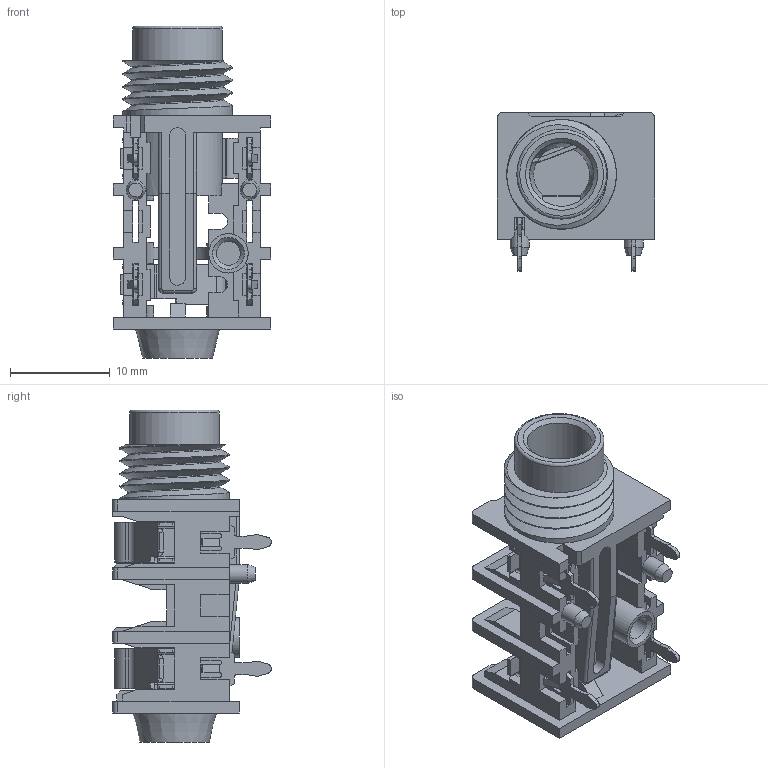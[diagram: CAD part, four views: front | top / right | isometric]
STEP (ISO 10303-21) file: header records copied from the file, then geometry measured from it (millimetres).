
FILE_DESCRIPTION((''),'2;1');
FILE_NAME('Open CASCADE Shape Model','2023-11-17T13:29:20',('minh'),('') ,'Open CASCADE STEP processor 7.6','Autodesk Inventor 2012','Unknown' );
FILE_SCHEMA(('AUTOMOTIVE_DESIGN_CC2 { 1 2 10303 214 -1 1 5 4 }'));
Length unit declared in the file: millimetre
Products named in the file (6): ACJS-HHOP; SOLID
Assembly tree (5 placements, depth 2):
  ACJS-HHOP
    SOLID
    SOLID
    SOLID
    SOLID
    SOLID
Bounding box: 15.75 x 15.9 x 33.3 mm (x, y, z)
Volume: 2001.6 mm3; surface area: 4073.9 mm2
Topology: 5 solids, 5 shells, 647 faces, 1823 edges, 1171 vertices
Faces by surface type: plane 500, cylinder 119, bspline 21, cone 6, torus 1
Full cylindrical faces by diameter (mm): 1.9 x2, 2.4 x1, 3.95 x1, 6.43 x1, 9 x1
Entity records: 23748 total; most frequent: CARTESIAN_POINT 6804, ORIENTED_EDGE 3646, DIRECTION 3320, EDGE_CURVE 1823, LINE 1488, VECTOR 1488, VERTEX_POINT 1171, AXIS2_PLACEMENT_3D 916
